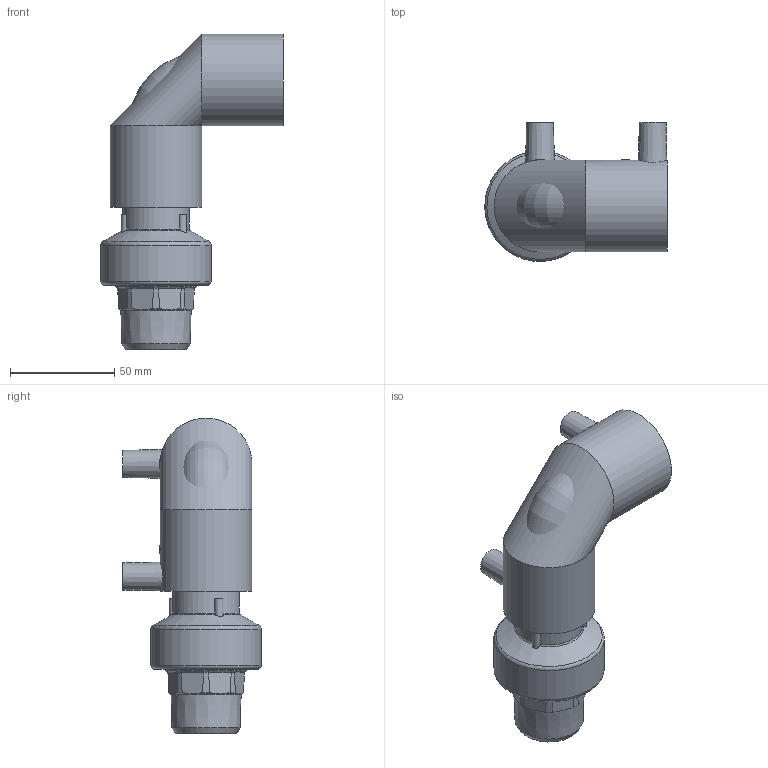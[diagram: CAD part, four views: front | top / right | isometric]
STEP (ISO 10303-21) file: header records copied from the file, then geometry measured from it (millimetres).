
FILE_DESCRIPTION(/* description */ ('Unknown'),/* implementation_level */ '2;1');
FILE_NAME(/* name */ 'GE9TMP032C',/* time_stamp */ '2021-03-02T15:12:53+01:00',/* author */ ('Unknown'),/* organization */ ('Unknown'),/* preprocessor_version */ 'ST-DEVELOPER v16.7',/* originating_system */ 'Solid Edge',/* authorisation */ 'Unknown');
FILE_SCHEMA (('AUTOMOTIVE_DESIGN {1 0 10303 214 3 1 1}'));
Length unit declared in the file: millimetre
Products named in the file (5): GE9TMP032C; GE9P032C; RTOMP032C; Parte PE 032; IOM032C
Assembly tree (4 placements, depth 3):
  GE9TMP032C
    GE9P032C
    RTOMP032C
      Parte PE 032
      IOM032C
Bounding box: 87.47 x 66.47 x 151.5 mm (x, y, z)
Volume: 159184 mm3; surface area: 65823.2 mm2
Topology: 3 solids, 3 shells, 491 faces, 1303 edges, 836 vertices
Faces by surface type: cylinder 218, plane 115, cone 70, bspline 59, torus 29
Full cylindrical faces by diameter (mm): 4 x4, 10 x2, 25.5 x1, 26 x1, 29.5 x2, 32 x3, 33.3 x2, 33.5 x2, 38.5 x1, 39 x2, 44 x6, 53 x1
Entity records: 19042 total; most frequent: CARTESIAN_POINT 6318, ORIENTED_EDGE 2476, DIRECTION 2018, EDGE_CURVE 1238, AXIS2_PLACEMENT_3D 915, VERTEX_POINT 822, B_SPLINE_CURVE_WITH_KNOTS 572, EDGE_LOOP 566
